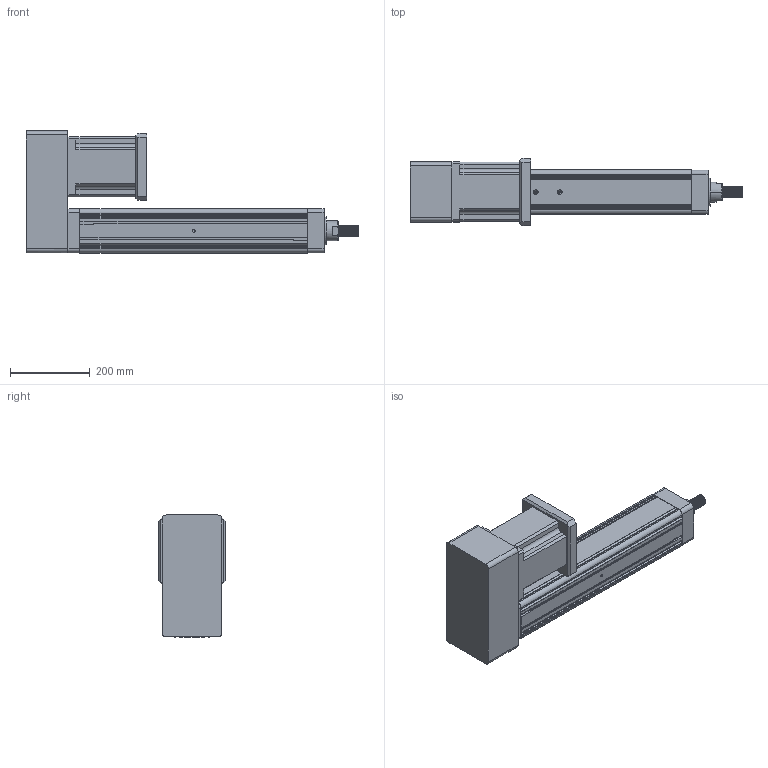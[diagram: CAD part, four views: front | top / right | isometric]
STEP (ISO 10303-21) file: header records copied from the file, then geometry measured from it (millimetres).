
FILE_DESCRIPTION (( 'STEP AP203' ), '1' );
FILE_NAME ('YRJ110-L400-H1K1.STEP', '2020-01-04T05:47:32', ( 'User' ), ( 'China' ), 'SwSTEP 2.0', 'SolidWorks 2016', '' );
FILE_SCHEMA (( 'CONFIG_CONTROL_DESIGN' ));
Length unit declared in the file: millimetre
Products named in the file (7): 095-100俴最倰第; H1-110-1; H1-110-2; K1-110; 萇儂碟-110; 142熬厒儂; YRJ110-L400-H1K1
Assembly tree (6 placements, depth 2):
  YRJ110-L400-H1K1
    095-100俴最倰第
    H1-110-1
    H1-110-2
    K1-110
    萇儂碟-110
    142熬厒儂
Bounding box: 831 x 168 x 305.5 mm (x, y, z)
Volume: 12182281.5 mm3; surface area: 982181.1 mm2
Topology: 6 solids, 6 shells, 364 faces, 1005 edges, 644 vertices
Faces by surface type: plane 165, cylinder 160, cone 35, bspline 4
Entity records: 20176 total; most frequent: CARTESIAN_POINT 10347, ORIENTED_EDGE 1962, DIRECTION 1833, EDGE_CURVE 981, VERTEX_POINT 644, LINE 613, VECTOR 613, AXIS2_PLACEMENT_3D 610
